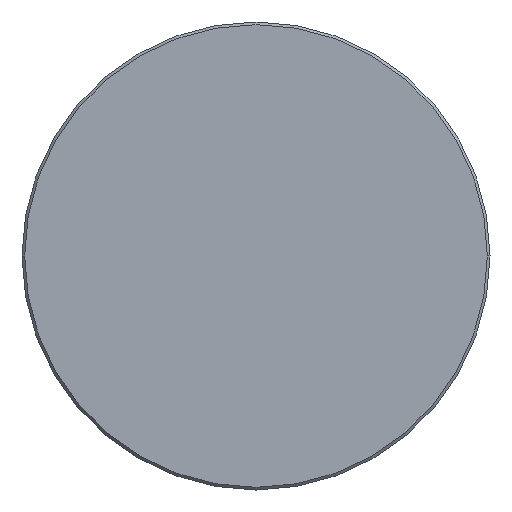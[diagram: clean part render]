
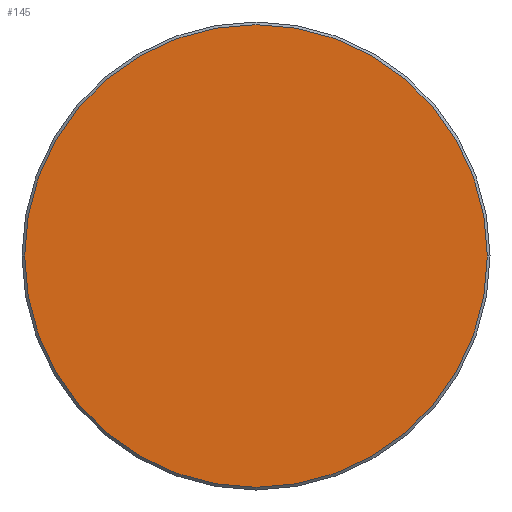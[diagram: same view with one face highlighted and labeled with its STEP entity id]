
A CAD part, left-side view. The second image highlights one B-rep face of the part: STEP entity #145.
In plain terms, the highlighted planar face has unit normal (-1, 0, 0).
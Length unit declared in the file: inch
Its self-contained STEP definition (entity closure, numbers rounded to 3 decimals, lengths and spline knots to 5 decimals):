
#3 = ORIENTED_EDGE ( 'NONE', *, *, #354, .T. ) ;
#7 = DIRECTION ( 'NONE',  ( -1., 0., 0. ) ) ;
#33 = VERTEX_POINT ( 'NONE', #34 ) ;
#34 = CARTESIAN_POINT ( 'NONE',  ( 0., 0.34756, 0. ) ) ;
#39 = CARTESIAN_POINT ( 'NONE',  ( 0., 0., 0. ) ) ;
#43 = CARTESIAN_POINT ( 'NONE',  ( 0., 0., 0. ) ) ;
#50 = CIRCLE ( 'NONE', #358, 0.34756 ) ;
#55 = FACE_OUTER_BOUND ( 'NONE', #114, .T. ) ;
#69 = DIRECTION ( 'NONE',  ( -1., 0., 0. ) ) ;
#80 = PLANE ( 'NONE',  #106 ) ;
#106 = AXIS2_PLACEMENT_3D ( 'NONE', #368, #117, #233 ) ;
#114 = EDGE_LOOP ( 'NONE', ( #3, #228 ) ) ;
#117 = DIRECTION ( 'NONE',  ( -1., 0., 0. ) ) ;
#145 = ADVANCED_FACE ( 'NONE', ( #55 ), #80, .T. ) ;
#148 = AXIS2_PLACEMENT_3D ( 'NONE', #43, #69, #253 ) ;
#154 = CIRCLE ( 'NONE', #148, 0.34756 ) ;
#164 = CARTESIAN_POINT ( 'NONE',  ( 0., -0.34756, 0. ) ) ;
#228 = ORIENTED_EDGE ( 'NONE', *, *, #299, .T. ) ;
#233 = DIRECTION ( 'NONE',  ( 0., -1., 0. ) ) ;
#253 = DIRECTION ( 'NONE',  ( 0., -1., 0. ) ) ;
#285 = DIRECTION ( 'NONE',  ( 0., -1., 0. ) ) ;
#299 = EDGE_CURVE ( 'NONE', #338, #33, #50, .T. ) ;
#338 = VERTEX_POINT ( 'NONE', #164 ) ;
#354 = EDGE_CURVE ( 'NONE', #33, #338, #154, .T. ) ;
#358 = AXIS2_PLACEMENT_3D ( 'NONE', #39, #7, #285 ) ;
#368 = CARTESIAN_POINT ( 'NONE',  ( 0., 0., 0. ) ) ;
